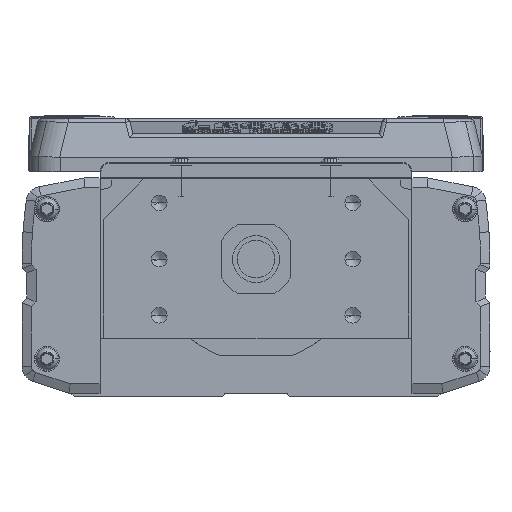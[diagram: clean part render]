
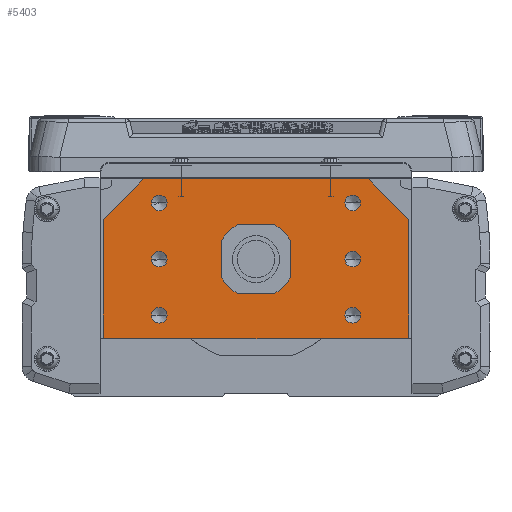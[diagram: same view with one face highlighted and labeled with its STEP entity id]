
A CAD part, left-side view. The second image highlights one B-rep face of the part: STEP entity #5403.
In plain terms, the highlighted planar face has unit normal (-1, 0, 0).
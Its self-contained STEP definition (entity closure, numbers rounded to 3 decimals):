
#5403=ADVANCED_FACE('',(#11300,#11301,#11302,#11303,#11304,#11305,#11306,#11307),#11308,.F.);
#11300=FACE_OUTER_BOUND('',#18749,.T.);
#11301=FACE_BOUND('',#18750,.T.);
#11302=FACE_BOUND('',#18751,.T.);
#11303=FACE_BOUND('',#18752,.T.);
#11304=FACE_BOUND('',#18753,.T.);
#11305=FACE_BOUND('',#18754,.T.);
#11306=FACE_BOUND('',#18755,.T.);
#11307=FACE_BOUND('',#18756,.T.);
#11308=PLANE('',#18757);
#18749=EDGE_LOOP('',(#34425,#34426,#34427,#34428,#34429,#34430,#34431,#34432));
#18750=EDGE_LOOP('',(#34433,#34434));
#18751=EDGE_LOOP('',(#34435,#34436));
#18752=EDGE_LOOP('',(#34437,#34438));
#18753=EDGE_LOOP('',(#34439,#34440));
#18754=EDGE_LOOP('',(#34441,#34442));
#18755=EDGE_LOOP('',(#34443,#34444));
#18756=EDGE_LOOP('',(#34445,#34446));
#18757=AXIS2_PLACEMENT_3D('',#34447,#34448,#34449);
#34425=ORIENTED_EDGE('',*,*,#42376,.F.);
#34426=ORIENTED_EDGE('',*,*,#42363,.F.);
#34427=ORIENTED_EDGE('',*,*,#42683,.F.);
#34428=ORIENTED_EDGE('',*,*,#44791,.F.);
#34429=ORIENTED_EDGE('',*,*,#42633,.F.);
#34430=ORIENTED_EDGE('',*,*,#45351,.F.);
#34431=ORIENTED_EDGE('',*,*,#39884,.F.);
#34432=ORIENTED_EDGE('',*,*,#45307,.F.);
#34433=ORIENTED_EDGE('',*,*,#40058,.T.);
#34434=ORIENTED_EDGE('',*,*,#44700,.T.);
#34435=ORIENTED_EDGE('',*,*,#40631,.T.);
#34436=ORIENTED_EDGE('',*,*,#42461,.T.);
#34437=ORIENTED_EDGE('',*,*,#40053,.T.);
#34438=ORIENTED_EDGE('',*,*,#45352,.T.);
#34439=ORIENTED_EDGE('',*,*,#43072,.T.);
#34440=ORIENTED_EDGE('',*,*,#44360,.T.);
#34441=ORIENTED_EDGE('',*,*,#44187,.T.);
#34442=ORIENTED_EDGE('',*,*,#44945,.T.);
#34443=ORIENTED_EDGE('',*,*,#42474,.T.);
#34444=ORIENTED_EDGE('',*,*,#42704,.T.);
#34445=ORIENTED_EDGE('',*,*,#39863,.F.);
#34446=ORIENTED_EDGE('',*,*,#45353,.F.);
#34447=CARTESIAN_POINT('',(0.,0.275,-2.548));
#34448=DIRECTION('',(1.0,0.,0.));
#34449=DIRECTION('',(0.,1.0,0.));
#39863=EDGE_CURVE('',#47656,#47651,#47658,.F.);
#39884=EDGE_CURVE('',#47692,#47693,#47694,.T.);
#40053=EDGE_CURVE('',#47984,#47988,#47990,.T.);
#40058=EDGE_CURVE('',#47993,#47997,#47999,.T.);
#40631=EDGE_CURVE('',#48969,#48973,#48975,.T.);
#42363=EDGE_CURVE('',#51778,#51774,#51780,.T.);
#42376=EDGE_CURVE('',#51774,#51797,#51798,.T.);
#42461=EDGE_CURVE('',#48973,#48969,#51918,.T.);
#42474=EDGE_CURVE('',#51930,#51933,#51935,.T.);
#42633=EDGE_CURVE('',#52162,#52164,#52165,.T.);
#42683=EDGE_CURVE('',#52228,#51778,#52230,.T.);
#42704=EDGE_CURVE('',#51933,#51930,#52258,.T.);
#43072=EDGE_CURVE('',#52792,#52796,#52798,.T.);
#44187=EDGE_CURVE('',#54340,#54342,#54344,.T.);
#44360=EDGE_CURVE('',#52796,#52792,#54559,.T.);
#44700=EDGE_CURVE('',#47997,#47993,#54993,.T.);
#44791=EDGE_CURVE('',#52164,#52228,#55106,.T.);
#44945=EDGE_CURVE('',#54342,#54340,#55301,.T.);
#45307=EDGE_CURVE('',#51797,#47692,#55723,.T.);
#45351=EDGE_CURVE('',#47693,#52162,#55778,.T.);
#45352=EDGE_CURVE('',#47988,#47984,#55779,.T.);
#45353=EDGE_CURVE('',#47651,#47656,#55780,.F.);
#47651=VERTEX_POINT('',#58663);
#47656=VERTEX_POINT('',#58669);
#47658=CIRCLE('',#58672,7.5);
#47692=VERTEX_POINT('',#58717);
#47693=VERTEX_POINT('',#58718);
#47694=LINE('',#58719,#58720);
#47984=VERTEX_POINT('',#59093);
#47988=VERTEX_POINT('',#59098);
#47990=CIRCLE('',#59101,2.5);
#47993=VERTEX_POINT('',#59104);
#47997=VERTEX_POINT('',#59109);
#47999=CIRCLE('',#59112,2.5);
#48969=VERTEX_POINT('',#60387);
#48973=VERTEX_POINT('',#60392);
#48975=CIRCLE('',#60395,2.5);
#51774=VERTEX_POINT('',#64685);
#51778=VERTEX_POINT('',#64691);
#51780=LINE('',#64694,#64695);
#51797=VERTEX_POINT('',#64717);
#51798=LINE('',#64718,#64719);
#51918=CIRCLE('',#64922,2.5);
#51930=VERTEX_POINT('',#64935);
#51933=VERTEX_POINT('',#64939);
#51935=CIRCLE('',#64942,2.5);
#52162=VERTEX_POINT('',#65283);
#52164=VERTEX_POINT('',#65286);
#52165=LINE('',#65287,#65288);
#52228=VERTEX_POINT('',#65373);
#52230=LINE('',#65376,#65377);
#52258=CIRCLE('',#65412,2.5);
#52792=VERTEX_POINT('',#66175);
#52796=VERTEX_POINT('',#66180);
#52798=CIRCLE('',#66183,2.5);
#54340=VERTEX_POINT('',#68559);
#54342=VERTEX_POINT('',#68562);
#54344=CIRCLE('',#68565,2.5);
#54559=CIRCLE('',#68854,2.5);
#54993=CIRCLE('',#69449,2.5);
#55106=LINE('',#69611,#69612);
#55301=CIRCLE('',#69888,2.5);
#55723=LINE('',#70451,#70452);
#55778=LINE('',#70541,#70542);
#55779=CIRCLE('',#70543,2.5);
#55780=CIRCLE('',#70544,7.5);
#58663=CARTESIAN_POINT('',(0.,-7.5,0.));
#58669=CARTESIAN_POINT('',(0.,7.5,0.));
#58672=AXIS2_PLACEMENT_3D('',#72880,#72881,#72882);
#58717=CARTESIAN_POINT('',(0.,-36.,25.7));
#58718=CARTESIAN_POINT('',(0.,-49.,12.7));
#58719=CARTESIAN_POINT('',(0.,-37.243,24.457));
#58720=VECTOR('',#72906,10.0);
#59093=CARTESIAN_POINT('',(0.,33.5,18.));
#59098=CARTESIAN_POINT('',(0.,28.5,18.));
#59101=AXIS2_PLACEMENT_3D('',#73142,#73143,#73144);
#59104=CARTESIAN_POINT('',(0.,33.5,-18.));
#59109=CARTESIAN_POINT('',(0.,28.5,-18.));
#59112=AXIS2_PLACEMENT_3D('',#73150,#73151,#73152);
#60387=CARTESIAN_POINT('',(0.,-33.5,-18.));
#60392=CARTESIAN_POINT('',(0.,-28.5,-18.));
#60395=AXIS2_PLACEMENT_3D('',#73983,#73984,#73985);
#64685=CARTESIAN_POINT('',(0.,49.,12.7));
#64691=CARTESIAN_POINT('',(0.,49.,-25.));
#64694=CARTESIAN_POINT('',(0.,49.,-25.));
#64695=VECTOR('',#76335,10.0);
#64717=CARTESIAN_POINT('',(0.,36.,25.7));
#64718=CARTESIAN_POINT('',(0.,37.381,24.319));
#64719=VECTOR('',#76350,10.);
#64922=AXIS2_PLACEMENT_3D('',#76437,#76438,#76439);
#64935=CARTESIAN_POINT('',(0.,-33.5,0.));
#64939=CARTESIAN_POINT('',(0.,-28.5,0.));
#64942=AXIS2_PLACEMENT_3D('',#76461,#76462,#76463);
#65283=CARTESIAN_POINT('',(0.,-49.,-25.));
#65286=CARTESIAN_POINT('',(0.,-48.5,-25.5));
#65287=CARTESIAN_POINT('',(0.,-49.,-25.));
#65288=VECTOR('',#76633,10.0);
#65373=CARTESIAN_POINT('',(0.,48.5,-25.5));
#65376=CARTESIAN_POINT('',(0.,48.5,-25.5));
#65377=VECTOR('',#76699,10.0);
#65412=AXIS2_PLACEMENT_3D('',#76725,#76726,#76727);
#66175=CARTESIAN_POINT('',(0.,-33.5,18.));
#66180=CARTESIAN_POINT('',(0.,-28.5,18.));
#66183=AXIS2_PLACEMENT_3D('',#77234,#77235,#77236);
#68559=CARTESIAN_POINT('',(0.,33.5,0.));
#68562=CARTESIAN_POINT('',(0.,28.5,0.));
#68565=AXIS2_PLACEMENT_3D('',#78691,#78692,#78693);
#68854=AXIS2_PLACEMENT_3D('',#78870,#78871,#78872);
#69449=AXIS2_PLACEMENT_3D('',#79260,#79261,#79262);
#69611=CARTESIAN_POINT('',(0.,0.,-25.5));
#69612=VECTOR('',#79387,10.0);
#69888=AXIS2_PLACEMENT_3D('',#79569,#79570,#79571);
#70451=CARTESIAN_POINT('',(0.,34.5,25.7));
#70452=VECTOR('',#79924,10.0);
#70541=CARTESIAN_POINT('',(0.,-49.,-14.));
#70542=VECTOR('',#79966,10.0);
#70543=AXIS2_PLACEMENT_3D('',#79967,#79968,#79969);
#70544=AXIS2_PLACEMENT_3D('',#79970,#79971,#79972);
#72880=CARTESIAN_POINT('',(0.,0.,0.));
#72881=DIRECTION('',(1.0,0.,0.));
#72882=DIRECTION('',(0.,-1.0,0.));
#72906=DIRECTION('',(0.,-0.707,-0.707));
#73142=CARTESIAN_POINT('',(0.,31.,18.));
#73143=DIRECTION('',(1.0,0.,0.));
#73144=DIRECTION('',(0.,1.0,0.));
#73150=CARTESIAN_POINT('',(0.,31.,-18.));
#73151=DIRECTION('',(1.0,0.,0.));
#73152=DIRECTION('',(0.,1.0,0.));
#73983=CARTESIAN_POINT('',(0.,-31.,-18.));
#73984=DIRECTION('',(1.0,0.,0.));
#73985=DIRECTION('',(0.,-1.0,0.));
#76335=DIRECTION('',(0.,0.,1.0));
#76350=DIRECTION('',(0.,-0.707,0.707));
#76437=CARTESIAN_POINT('',(0.,-31.,-18.));
#76438=DIRECTION('',(1.0,0.,0.));
#76439=DIRECTION('',(0.,-1.0,0.));
#76461=CARTESIAN_POINT('',(0.,-31.,0.));
#76462=DIRECTION('',(1.0,0.,0.));
#76463=DIRECTION('',(0.,-1.0,0.));
#76633=DIRECTION('',(0.,0.707,-0.707));
#76699=DIRECTION('',(0.,0.707,0.707));
#76725=CARTESIAN_POINT('',(0.,-31.,0.));
#76726=DIRECTION('',(1.0,0.,0.));
#76727=DIRECTION('',(0.,-1.0,0.));
#77234=CARTESIAN_POINT('',(0.,-31.,18.));
#77235=DIRECTION('',(1.0,0.,0.));
#77236=DIRECTION('',(0.,-1.0,0.));
#78691=CARTESIAN_POINT('',(0.,31.,0.));
#78692=DIRECTION('',(1.0,0.,0.));
#78693=DIRECTION('',(0.,1.0,0.));
#78870=CARTESIAN_POINT('',(0.,-31.,18.));
#78871=DIRECTION('',(1.0,0.,0.));
#78872=DIRECTION('',(0.,-1.0,0.));
#79260=CARTESIAN_POINT('',(0.,31.,-18.));
#79261=DIRECTION('',(1.0,0.,0.));
#79262=DIRECTION('',(0.,1.0,0.));
#79387=DIRECTION('',(0.,1.0,0.));
#79569=CARTESIAN_POINT('',(0.,31.,0.));
#79570=DIRECTION('',(1.0,0.,0.));
#79571=DIRECTION('',(0.,1.0,0.));
#79924=DIRECTION('',(0.,-1.0,0.));
#79966=DIRECTION('',(0.,0.,-1.0));
#79967=CARTESIAN_POINT('',(0.,31.,18.));
#79968=DIRECTION('',(1.0,0.,0.));
#79969=DIRECTION('',(0.,1.0,0.));
#79970=CARTESIAN_POINT('',(0.,0.,0.));
#79971=DIRECTION('',(1.0,0.,0.));
#79972=DIRECTION('',(0.,-1.0,0.));
